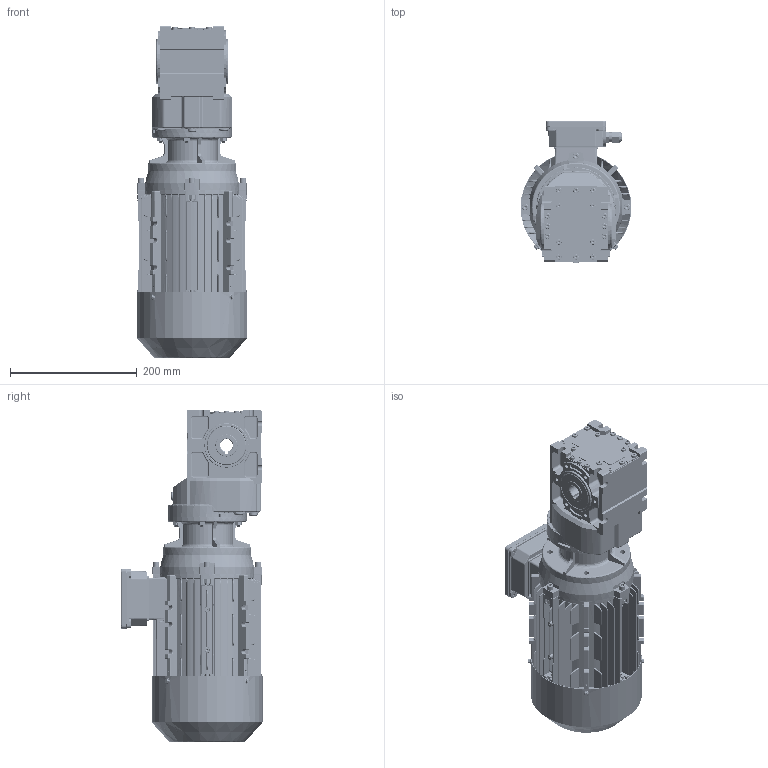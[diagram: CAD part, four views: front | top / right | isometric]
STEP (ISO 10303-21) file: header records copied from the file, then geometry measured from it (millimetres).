
FILE_DESCRIPTION (( 'STEP AP203' ), '1' );
FILE_NAME ('KV_003_0_MX3-90L.STEP', '2018-11-19T11:19:03', ( '' ), ( '' ), 'SwSTEP 2.0', 'SolidWorks 2012', '' );
FILE_SCHEMA (( 'CONFIG_CONTROL_DESIGN' ));
Products named in the file (26): MX3-90L_B14; IE3-90L flange B14; KV_003_0_MX3-90L; hexagon nuts grade c gb_GB_FASTENER_NUT_SNC1 M6-N_1; IE3 90L cable glandsM16_1; cross recessed pan head screws gb_GB_CROSS_SCREWS_TYPE1 M5X10-10  H type-N_1; IE3 90L  oil seal_1; plain washers-n series-grade a gb_GB_FASTENER_WASHER_PWNA 4_1; IE3 90L grouding mark_1; circlips for shaft--type a large gb_GB_CONNECTING_PIECE_RING_RRA 19_1; cross recessed pan head screws gb_GB_CROSS_SCREWS_TYPE1 M4X5-5  H type-N_1; cross recessed pan head tapping screws gb_GB_CROSS_SCREWS_TYPE128 ST4.2X9.5 H C-N_1; hexagon socket head cap screws gb_GB_FASTENER_SCREWS_HSHCS M6X30-N_1; IE3 90L flange_1; hexagon flange head tapping screws gb_GB_SQUARE_AND_HEXAGON_TYPE137 ST4.2X9.5 F-N_1; IE3 90L terminal box_1; spring lock washers--normal type gb_GB_FASTENER_WASHER_SW 6_1; IE3 90L terminal box cover_1; IE3 90L fan_1; plain parallel keys_GB_CONNECTING_PIECE_KEYS_CSK 8X40_1; IE3 90L fan cover_1; IE3 90L rotor_1; 0390B14_Varsayìlan; K003_Varsayìlan_1; IE3 90L casing_1; ML111A_Varsayìlan_1
Assembly tree (55 placements, depth 3):
  KV_003_0_MX3-90L
    K003_Varsayìlan_1
    0390B14_Varsayìlan
    ML111A_Varsayìlan_1
    MX3-90L_B14
      IE3 90L casing_1
      IE3 90L rotor_1
      IE3 90L fan_1
      IE3 90L fan cover_1
      plain parallel keys_GB_CONNECTING_PIECE_KEYS_CSK 8X40_1
      IE3 90L terminal box_1
      IE3 90L terminal box cover_1
      spring lock washers--normal type gb_GB_FASTENER_WASHER_SW 6_1  x8
      cross recessed pan head tapping screws gb_GB_CROSS_SCREWS_TYPE128 ST4.2X9.5 H C-N_1  x4
      hexagon flange head tapping screws gb_GB_SQUARE_AND_HEXAGON_TYPE137 ST4.2X9.5 F-N_1  x4
      hexagon socket head cap screws gb_GB_FASTENER_SCREWS_HSHCS M6X30-N_1  x8
      IE3 90L flange_1
      circlips for shaft--type a large gb_GB_CONNECTING_PIECE_RING_RRA 19_1
      IE3 90L grouding mark_1
      plain washers-n series-grade a gb_GB_FASTENER_WASHER_PWNA 4_1
      cross recessed pan head screws gb_GB_CROSS_SCREWS_TYPE1 M4X5-5  H type-N_1
      cross recessed pan head screws gb_GB_CROSS_SCREWS_TYPE1 M5X10-10  H type-N_1  x4
      IE3 90L cable glandsM16_1  x2
      IE3 90L  oil seal_1
      hexagon nuts grade c gb_GB_FASTENER_NUT_SNC1 M6-N_1  x7
      IE3-90L flange B14
Bounding box: 175.1 x 223.05 x 524.4 mm (x, y, z)
Volume: 4068491.4 mm3; surface area: 1061798.1 mm2
Topology: 54 solids, 54 shells, 5833 faces, 14802 edges, 9104 vertices
Faces by surface type: plane 2171, cylinder 1867, bspline 1056, cone 469, torus 167, sphere 103
Entity records: 201990 total; most frequent: CARTESIAN_POINT 81091, ORIENTED_EDGE 26230, DIRECTION 22154, EDGE_CURVE 13115, VERTEX_POINT 8147, AXIS2_PLACEMENT_3D 8091, VECTOR 5972, LINE 5972
